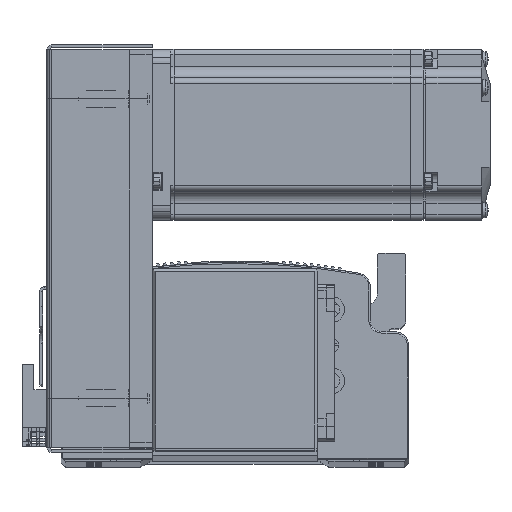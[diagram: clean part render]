
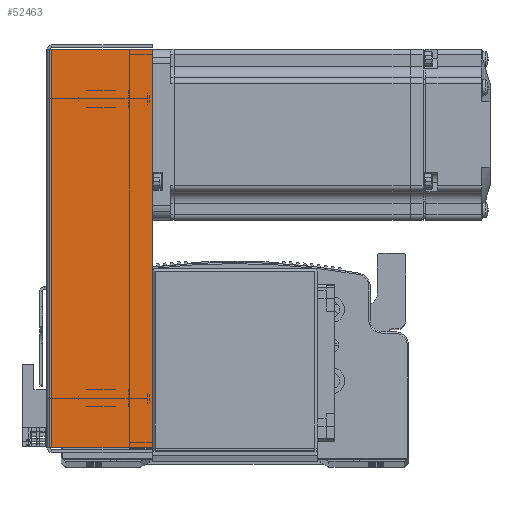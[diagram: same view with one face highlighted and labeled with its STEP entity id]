
A CAD part, top view. The second image highlights one B-rep face of the part: STEP entity #52463.
In plain terms, the highlighted planar face has unit normal (0, 0, 1) as drawn and (0, 0, -1) by its records, which use the part's own axes.
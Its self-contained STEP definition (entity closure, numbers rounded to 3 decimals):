
#13713 = CARTESIAN_POINT ( 'NONE',  ( 0., 36., -33.5 ) ) ;
#13720 = DIRECTION ( 'NONE',  ( 0., 1., 0. ) ) ;
#13722 = CARTESIAN_POINT ( 'NONE',  ( 71.5, 0.737, -33.5 ) ) ;
#13727 = DIRECTION ( 'NONE',  ( 1., 0., 0. ) ) ;
#13747 = CARTESIAN_POINT ( 'NONE',  ( -69.793, 0., -33.5 ) ) ;
#13751 = DIRECTION ( 'NONE',  ( 1., 0., 0. ) ) ;
#13900 = CARTESIAN_POINT ( 'NONE',  ( 69.793, 0., -33.5 ) ) ;
#14108 = DIRECTION ( 'NONE',  ( 0., 1., 0. ) ) ;
#20694 = CARTESIAN_POINT ( 'NONE',  ( 69.793, 0.737, -33.5 ) ) ;
#20695 = CARTESIAN_POINT ( 'NONE',  ( -69.793, 36., -33.5 ) ) ;
#20707 = CARTESIAN_POINT ( 'NONE',  ( 69.793, 36., -33.5 ) ) ;
#22251 = CARTESIAN_POINT ( 'NONE',  ( -69.793, 0.737, -33.5 ) ) ;
#23165 = LINE ( 'NONE', #13747, #23255 ) ;
#23208 = LINE ( 'NONE', #13713, #23230 ) ;
#23209 = VECTOR ( 'NONE', #13727, 1000. ) ;
#23230 = VECTOR ( 'NONE', #13751, 1000. ) ;
#23253 = LINE ( 'NONE', #13722, #23209 ) ;
#23255 = VECTOR ( 'NONE', #13720, 1000. ) ;
#23297 = VECTOR ( 'NONE', #14108, 1000. ) ;
#23304 = LINE ( 'NONE', #13900, #23297 ) ;
#35253 = DIRECTION ( 'NONE',  ( 0., 0., 1. ) ) ;
#35270 = PLANE ( 'NONE',  #51785 ) ;
#35271 = CARTESIAN_POINT ( 'NONE',  ( 0., 0., -33.5 ) ) ;
#35284 = DIRECTION ( 'NONE',  ( 0., -1., 0. ) ) ;
#37461 = ORIENTED_EDGE ( 'NONE', *, *, #80097, .T. ) ;
#37503 = ORIENTED_EDGE ( 'NONE', *, *, #80084, .T. ) ;
#37525 = ORIENTED_EDGE ( 'NONE', *, *, #80156, .F. ) ;
#37569 = ORIENTED_EDGE ( 'NONE', *, *, #80096, .F. ) ;
#44412 = FACE_OUTER_BOUND ( 'NONE', #77874, .T. ) ;
#51785 = AXIS2_PLACEMENT_3D ( 'NONE', #35271, #35253, #35284 ) ;
#52463 = ADVANCED_FACE ( 'NONE', ( #44412 ), #35270, .F. ) ;
#69432 = VERTEX_POINT ( 'NONE', #22251 ) ;
#69651 = VERTEX_POINT ( 'NONE', #20694 ) ;
#69654 = VERTEX_POINT ( 'NONE', #20695 ) ;
#69678 = VERTEX_POINT ( 'NONE', #20707 ) ;
#77874 = EDGE_LOOP ( 'NONE', ( #37569, #37503, #37461, #37525 ) ) ;
#80084 = EDGE_CURVE ( 'NONE', #69432, #69654, #23165, .T. ) ;
#80096 = EDGE_CURVE ( 'NONE', #69432, #69651, #23253, .T. ) ;
#80097 = EDGE_CURVE ( 'NONE', #69654, #69678, #23208, .T. ) ;
#80156 = EDGE_CURVE ( 'NONE', #69651, #69678, #23304, .T. ) ;
